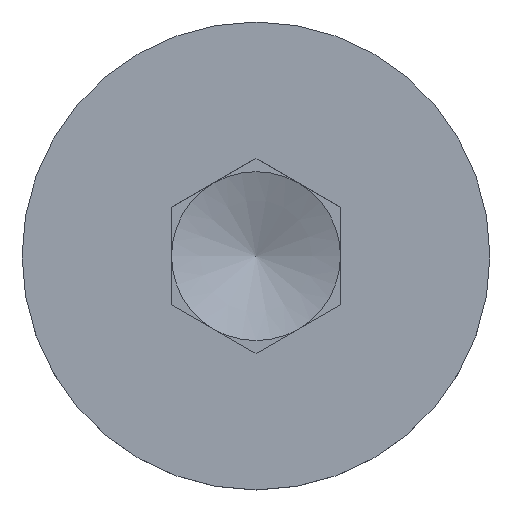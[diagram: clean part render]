
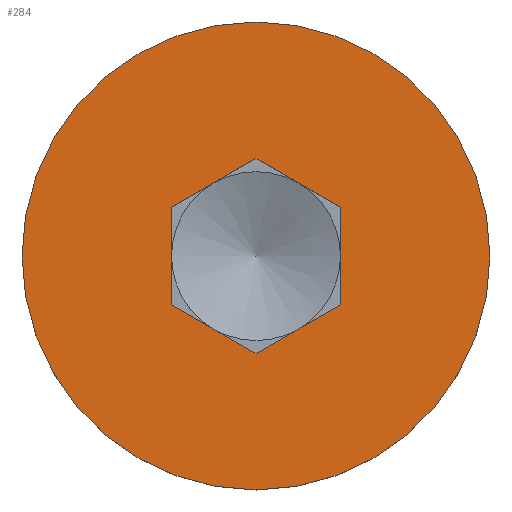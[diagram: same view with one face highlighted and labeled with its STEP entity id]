
A CAD part, top view. The second image highlights one B-rep face of the part: STEP entity #284.
In plain terms, the highlighted planar face has unit normal (0, 0, 1).
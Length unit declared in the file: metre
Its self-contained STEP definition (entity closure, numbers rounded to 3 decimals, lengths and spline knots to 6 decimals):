
#29=LINE('',#469,#53);
#30=LINE('',#472,#54);
#31=LINE('',#474,#55);
#32=LINE('',#476,#56);
#33=LINE('',#478,#57);
#34=LINE('',#480,#58);
#53=VECTOR('',#380,1.);
#54=VECTOR('',#381,1.);
#55=VECTOR('',#382,1.);
#56=VECTOR('',#383,1.);
#57=VECTOR('',#384,1.);
#58=VECTOR('',#385,1.);
#82=ORIENTED_EDGE('',*,*,#154,.F.);
#83=ORIENTED_EDGE('',*,*,#155,.T.);
#84=ORIENTED_EDGE('',*,*,#156,.T.);
#85=ORIENTED_EDGE('',*,*,#157,.T.);
#86=ORIENTED_EDGE('',*,*,#158,.T.);
#87=ORIENTED_EDGE('',*,*,#159,.T.);
#88=ORIENTED_EDGE('',*,*,#160,.T.);
#154=EDGE_CURVE('',#186,#186,#205,.T.);
#155=EDGE_CURVE('',#187,#188,#29,.T.);
#156=EDGE_CURVE('',#188,#189,#30,.T.);
#157=EDGE_CURVE('',#189,#190,#31,.T.);
#158=EDGE_CURVE('',#190,#191,#32,.T.);
#159=EDGE_CURVE('',#191,#192,#33,.T.);
#160=EDGE_CURVE('',#192,#187,#34,.T.);
#186=VERTEX_POINT('',#468);
#187=VERTEX_POINT('',#470);
#188=VERTEX_POINT('',#471);
#189=VERTEX_POINT('',#473);
#190=VERTEX_POINT('',#475);
#191=VERTEX_POINT('',#477);
#192=VERTEX_POINT('',#479);
#205=CIRCLE('',#323,0.00277);
#217=EDGE_LOOP('',(#82));
#218=EDGE_LOOP('',(#83,#84,#85,#86,#87,#88));
#243=FACE_BOUND('',#217,.T.);
#244=FACE_BOUND('',#218,.T.);
#270=PLANE('',#322);
#284=ADVANCED_FACE('',(#243,#244),#270,.F.);
#322=AXIS2_PLACEMENT_3D('',#466,#376,#377);
#323=AXIS2_PLACEMENT_3D('',#467,#378,#379);
#376=DIRECTION('',(0.,0.,-1.));
#377=DIRECTION('',(-1.,0.,0.));
#378=DIRECTION('',(0.,0.,-1.));
#379=DIRECTION('',(-1.,0.,0.));
#380=DIRECTION('',(0.866,-0.5,0.));
#381=DIRECTION('',(0.,-1.,0.));
#382=DIRECTION('',(-0.866,-0.5,0.));
#383=DIRECTION('',(-0.866,0.5,0.));
#384=DIRECTION('',(0.,1.,0.));
#385=DIRECTION('',(0.866,0.5,0.));
#466=CARTESIAN_POINT('',(-0.001385,0.,0.));
#467=CARTESIAN_POINT('',(0.,0.,0.));
#468=CARTESIAN_POINT('',(-0.00277,0.,0.));
#469=CARTESIAN_POINT('',(0.0005,0.000866,0.));
#470=CARTESIAN_POINT('',(0.,0.001155,0.));
#471=CARTESIAN_POINT('',(0.001,0.000577,0.));
#472=CARTESIAN_POINT('',(0.001,0.,0.));
#473=CARTESIAN_POINT('',(0.001,-0.000577,0.));
#474=CARTESIAN_POINT('',(0.0005,-0.000866,0.));
#475=CARTESIAN_POINT('',(0.,-0.001155,0.));
#476=CARTESIAN_POINT('',(-0.0005,-0.000866,0.));
#477=CARTESIAN_POINT('',(-0.001,-0.000577,0.));
#478=CARTESIAN_POINT('',(-0.001,0.,0.));
#479=CARTESIAN_POINT('',(-0.001,0.000577,0.));
#480=CARTESIAN_POINT('',(-0.0005,0.000866,0.));
